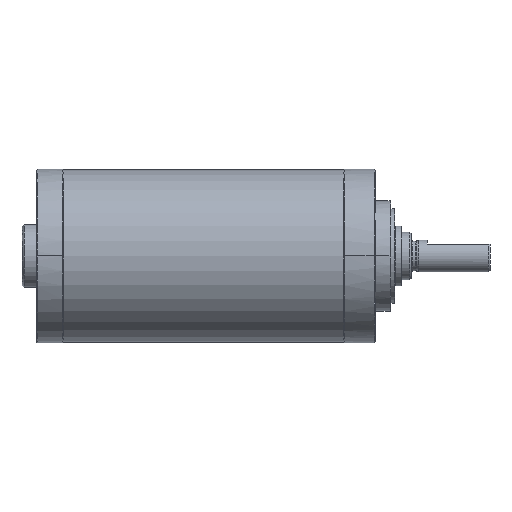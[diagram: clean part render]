
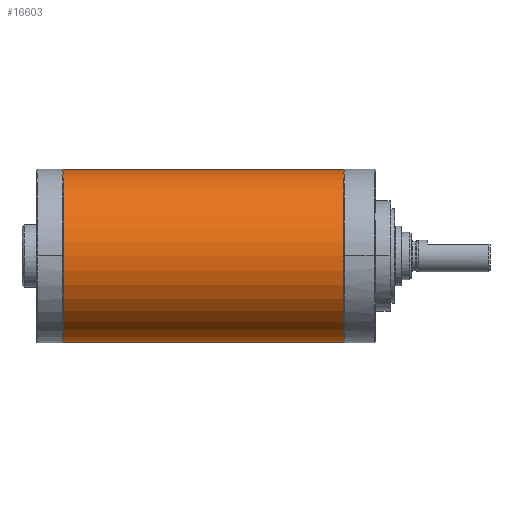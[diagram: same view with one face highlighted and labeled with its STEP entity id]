
A CAD part, top view. The second image highlights one B-rep face of the part: STEP entity #16603.
In plain terms, the highlighted cylindrical face has radius 10.934 mm (diameter 21.867 mm), a partial arc.
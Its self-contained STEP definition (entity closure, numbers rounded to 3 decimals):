
#16408=CARTESIAN_POINT('',(18.046,0.,0.));
#16409=DIRECTION('',(-1.,0.,0.));
#16410=DIRECTION('',(0.,1.,0.));
#16411=AXIS2_PLACEMENT_3D('',#16408,#16409,#16410);
#16416=DIRECTION('',(-1.,0.,0.));
#16417=VECTOR('',#16416,35.6);
#16418=CARTESIAN_POINT('',(18.046,10.934,0.));
#16419=LINE('',#16418,#16417);
#16431=DIRECTION('',(-1.,0.,0.));
#16432=VECTOR('',#16431,35.6);
#16433=CARTESIAN_POINT('',(18.046,-10.934,0.));
#16434=LINE('',#16433,#16432);
#16532=CARTESIAN_POINT('',(-17.554,0.,0.));
#16533=DIRECTION('',(-1.,0.,0.));
#16534=DIRECTION('',(0.,1.,0.));
#16535=AXIS2_PLACEMENT_3D('',#16532,#16533,#16534);
#16564=CARTESIAN_POINT('',(18.046,10.934,0.));
#16565=CARTESIAN_POINT('',(-17.554,10.934,0.));
#16566=VERTEX_POINT('',#16564);
#16567=VERTEX_POINT('',#16565);
#16568=CARTESIAN_POINT('',(18.046,-10.934,0.));
#16569=CARTESIAN_POINT('',(-17.554,-10.934,0.));
#16570=VERTEX_POINT('',#16568);
#16571=VERTEX_POINT('',#16569);
#16588=CARTESIAN_POINT('',(19.826,0.,0.));
#16589=DIRECTION('',(-1.,0.,0.));
#16590=DIRECTION('',(0.,1.,0.));
#16591=AXIS2_PLACEMENT_3D('',#16588,#16589,#16590);
#16592=CYLINDRICAL_SURFACE('',#16591,10.934);
#16594=ORIENTED_EDGE('',*,*,#16593,.T.);
#16596=ORIENTED_EDGE('',*,*,#16595,.T.);
#16598=ORIENTED_EDGE('',*,*,#16597,.F.);
#16600=ORIENTED_EDGE('',*,*,#16599,.F.);
#16601=EDGE_LOOP('',(#16594,#16596,#16598,#16600));
#16602=FACE_OUTER_BOUND('',#16601,.F.);
#16412=CIRCLE('',#16411,10.934);
#16536=CIRCLE('',#16535,10.934);
#16593=EDGE_CURVE('',#16566,#16567,#16419,.T.);
#16595=EDGE_CURVE('',#16567,#16571,#16536,.T.);
#16597=EDGE_CURVE('',#16570,#16571,#16434,.T.);
#16599=EDGE_CURVE('',#16566,#16570,#16412,.T.);
#16603=ADVANCED_FACE('',(#16602),#16592,.T.);
